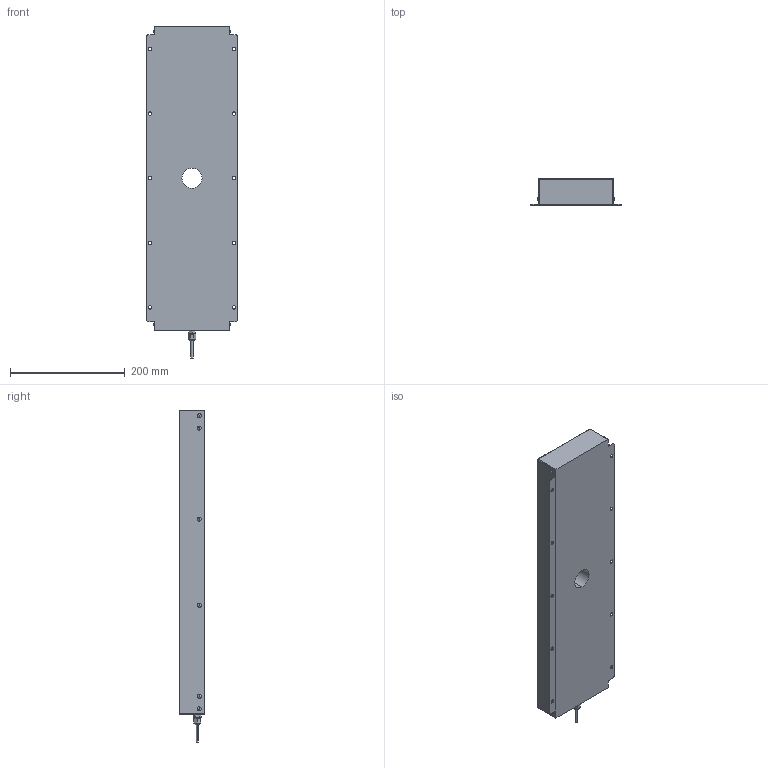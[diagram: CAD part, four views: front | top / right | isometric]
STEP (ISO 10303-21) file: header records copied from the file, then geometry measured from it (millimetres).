
FILE_DESCRIPTION (( 'STEP AP214' ), '1' );
FILE_NAME ('HDSBPA-500x100_-24-35D.STEP', '2023-08-24T07:54:59', ( '' ), ( '' ), 'SwSTEP 2.0', 'SolidWorks 2022', '' );
FILE_SCHEMA (( 'AUTOMOTIVE_DESIGN' ));
Length unit declared in the file: millimetre
Products named in the file (1): HDSBPA-500x100_-24-35D
Bounding box: 160 x 45 x 578 mm (x, y, z)
Volume: 3025392.2 mm3; surface area: 231563.7 mm2
Topology: 1 solids, 1 shells, 142 faces, 382 edges, 232 vertices
Faces by surface type: cylinder 64, plane 48, sphere 28, torus 2
Entity records: 4274 total; most frequent: DIRECTION 810, CARTESIAN_POINT 705, ORIENTED_EDGE 684, EDGE_CURVE 342, AXIS2_PLACEMENT_3D 325, VERTEX_POINT 220, EDGE_LOOP 182, CIRCLE 182
